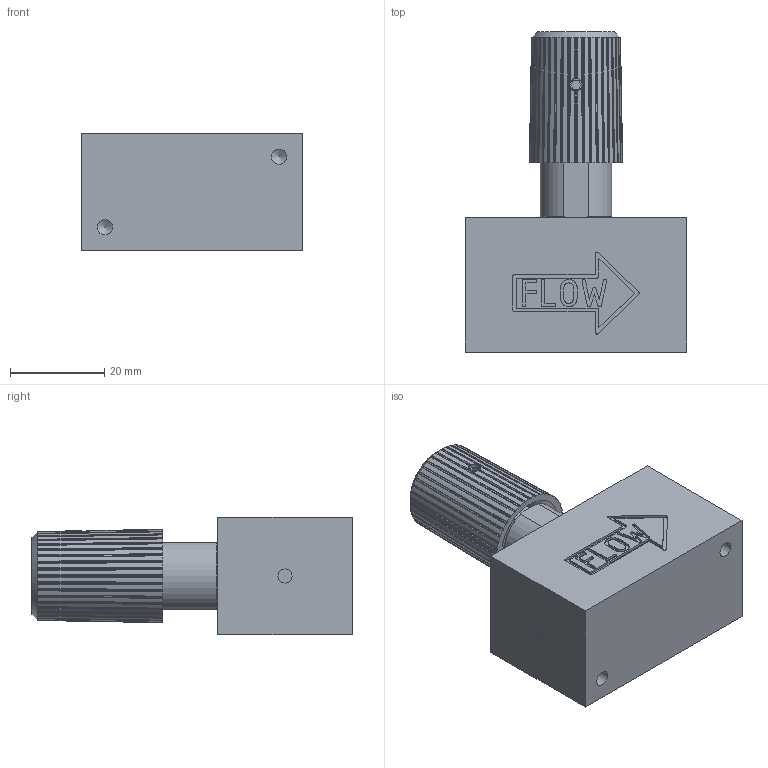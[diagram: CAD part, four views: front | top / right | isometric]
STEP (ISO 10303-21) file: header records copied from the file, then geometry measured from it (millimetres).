
FILE_DESCRIPTION(/* description */ (''),/* implementation_level */ '2;1');
FILE_NAME(/* name */ 'I:\3D\Eng\Marcel\Step-files MASS-VIEW controller\NV-0xx-SR.stp',/* time_stamp */ '2015-10-09T14:02:50+02:00',/* author */ ('M-Huiskes'),/* organization */ (''),/* preprocessor_version */ 'ST-DEVELOPER v15.6',/* originating_system */ 'Autodesk Inventor 2015',/* authorisation */ '');
FILE_SCHEMA (('CONFIG_CONTROL_DESIGN'));
Length unit declared in the file: millimetre
Products named in the file (1): Part15
Bounding box: 47 x 68 x 25 mm (x, y, z)
Volume: 41045.8 mm3; surface area: 10628.4 mm2
Topology: 1 solids, 1 shells, 299 faces, 837 edges, 558 vertices
Faces by surface type: plane 198, cone 49, bspline 32, cylinder 20
Full cylindrical faces by diameter (mm): 2.616 x1, 2.642 x1, 3 x2, 3.242 x2, 3.6 x1, 4.75 x1, 8.05 x1, 16.891 x1
Entity records: 9725 total; most frequent: CARTESIAN_POINT 2348, ORIENTED_EDGE 1636, DIRECTION 1284, EDGE_CURVE 818, VERTEX_POINT 552, LINE 492, VECTOR 492, AXIS2_PLACEMENT_3D 396
